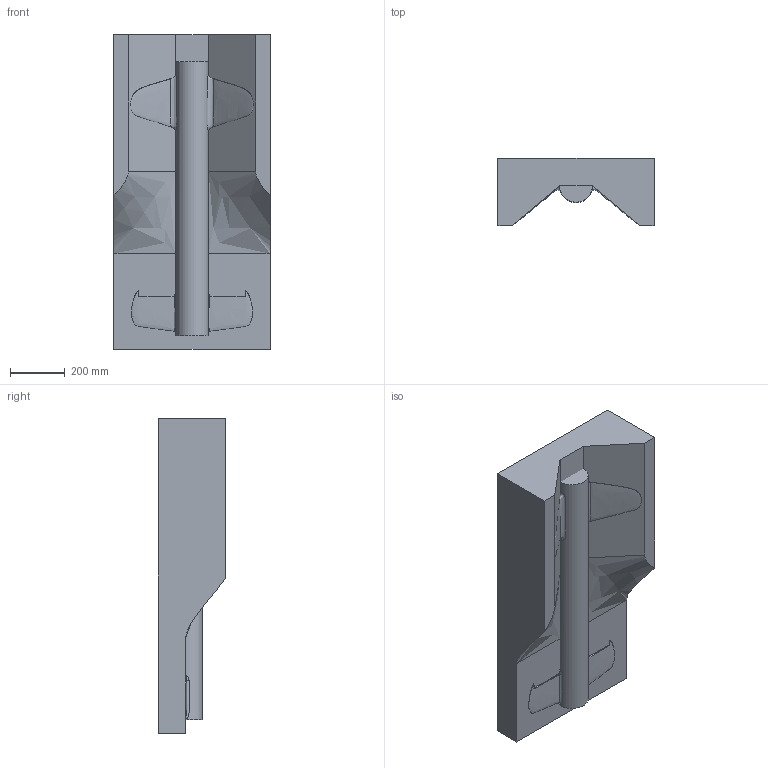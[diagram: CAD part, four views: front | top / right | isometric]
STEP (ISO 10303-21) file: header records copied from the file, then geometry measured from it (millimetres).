
FILE_DESCRIPTION(('STEP AP214'), '1');
FILE_NAME('ﾂ褞', '', ('UNSPECIFIED'), ('UNSPECIFIED'), 'ASCON STEP Converter 1.3', 'ASCON Math Kernel', '');
FILE_SCHEMA(('AUTOMOTIVE_DESIGN { 1 0 10303 214 3 1 1}'));
Length unit declared in the file: millimetre
Assembly tree (3 placements, depth 3):
  (unnamed)
    (unnamed)
      (unnamed)
      (unnamed)
Bounding box: 570 x 244.8 x 1150 mm (x, y, z)
Volume: 103898768.3 mm3; surface area: 2542729.3 mm2
Topology: 2 solids, 2 shells, 39 faces, 101 edges, 70 vertices
Faces by surface type: bspline 22, plane 16, cylinder 1
Full cylindrical faces by diameter (mm): 120 x1
Entity records: 23855 total; most frequent: CARTESIAN_POINT 22480, ORIENTED_EDGE 168, DIRECTION 112, EDGE_CURVE 84, VERTEX_POINT 56, COLOUR_RGB 54, PRESENTATION_STYLE_ASSIGNMENT 54, B_SPLINE_CURVE_WITH_KNOTS 49
